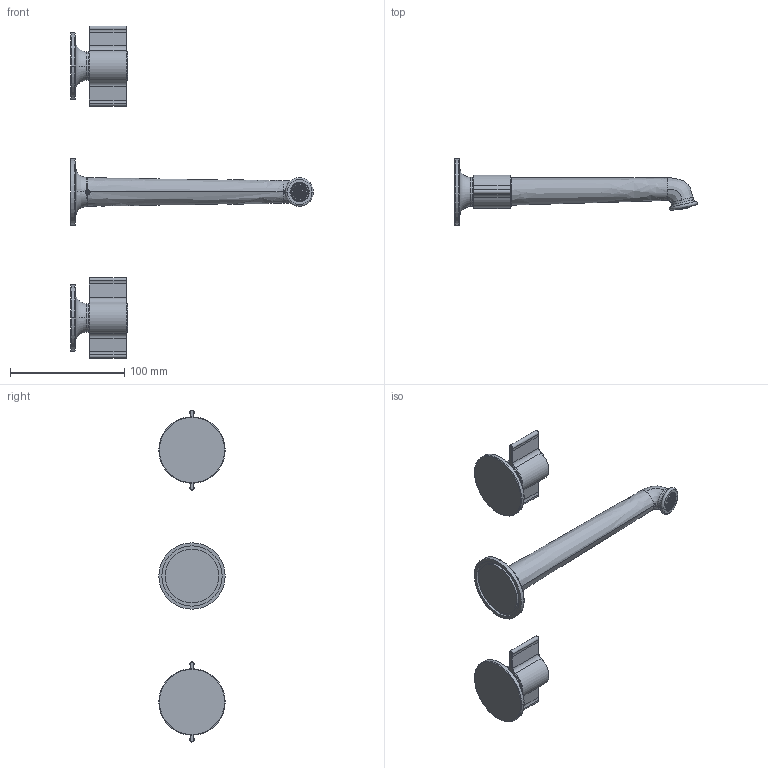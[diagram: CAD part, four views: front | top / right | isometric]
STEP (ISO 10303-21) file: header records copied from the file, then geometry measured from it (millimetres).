
FILE_DESCRIPTION((''),'2;1');
FILE_NAME('76000J413B000000_SW0001','2025-03-07T10:02:02',('cristian.dorz'),(''),'CREO PARAMETRIC BY PTC INC, 2022281','CREO PARAMETRIC BY PTC INC, 2022281','');
FILE_SCHEMA(('AUTOMOTIVE_DESIGN { 1 0 10303 214 1 1 1 1 }'));
Length unit declared in the file: millimetre
Products named in the file (1): 76000J413B000000_SW0001
Bounding box: 211.91 x 58 x 290 mm (x, y, z)
Volume: 182124.1 mm3; surface area: 49874 mm2
Topology: 3 solids, 3 shells, 740 faces, 2031 edges, 1299 vertices
Faces by surface type: plane 467, cylinder 144, torus 74, cone 27, bspline 24, sphere 2, extrusion 2
Entity records: 35825 total; most frequent: CARTESIAN_POINT 11077, DIRECTION 4166, ORIENTED_EDGE 4058, EDGE_CURVE 2029, AXIS2_PLACEMENT_3D 1549, VERTEX_POINT 1299, VECTOR 1065, LINE 1063
